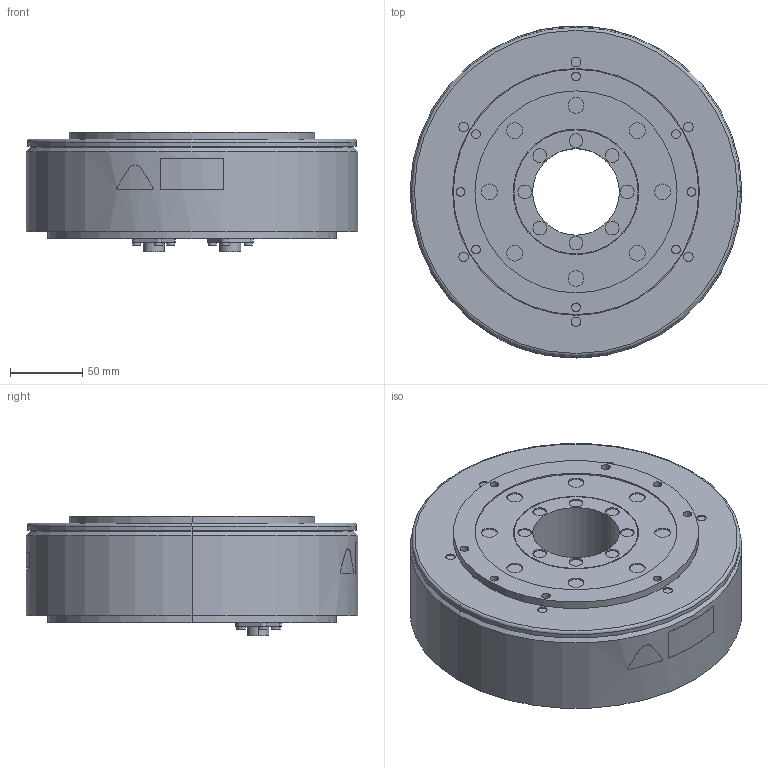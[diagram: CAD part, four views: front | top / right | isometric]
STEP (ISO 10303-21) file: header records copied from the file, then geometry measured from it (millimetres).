
FILE_DESCRIPTION (( 'STEP AP203' ), '1' );
FILE_NAME ('sgm7e_08d_a1_.STEP', '2016-06-01T07:25:14', ( '' ), ( '' ), 'SwSTEP 2.0', 'SolidWorks 2010', '' );
FILE_SCHEMA (( 'CONFIG_CONTROL_DESIGN' ));
Length unit declared in the file: millimetre
Products named in the file (1): sgm7e_08d_a1_
Bounding box: 230 x 230 x 83.1 mm (x, y, z)
Volume: 2694135.1 mm3; surface area: 151810.3 mm2
Topology: 1 solids, 1 shells, 336 faces, 730 edges, 484 vertices
Faces by surface type: cylinder 189, plane 136, bspline 5, cone 4, torus 2
Entity records: 9809 total; most frequent: CARTESIAN_POINT 1984, DIRECTION 1778, ORIENTED_EDGE 1460, AXIS2_PLACEMENT_3D 732, EDGE_CURVE 730, VERTEX_POINT 484, EDGE_LOOP 426, CIRCLE 400
